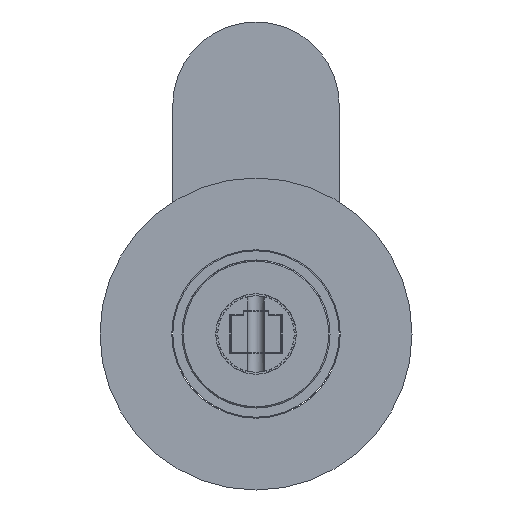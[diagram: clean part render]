
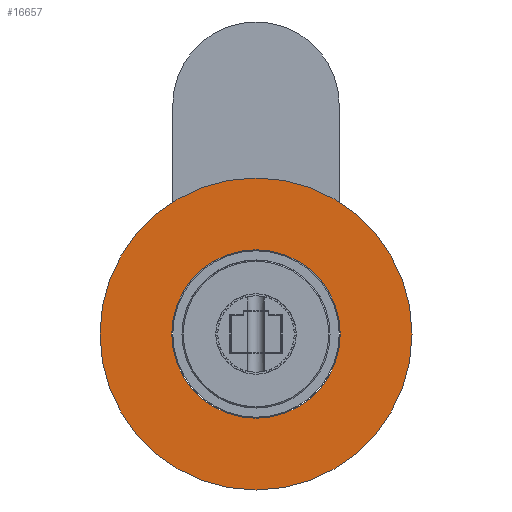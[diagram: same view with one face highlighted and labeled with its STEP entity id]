
A CAD part, front view. The second image highlights one B-rep face of the part: STEP entity #16657.
In plain terms, the highlighted planar face has unit normal (0, -1, 0).
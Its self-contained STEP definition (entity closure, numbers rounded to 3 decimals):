
#16552=CARTESIAN_POINT('',(0.,-12.,0.));
#16553=DIRECTION('',(0.,-1.,0.));
#16554=DIRECTION('',(1.,0.,0.));
#16555=AXIS2_PLACEMENT_3D('',#16552,#16553,#16554);
#16557=CARTESIAN_POINT('',(0.,-12.,0.));
#16558=DIRECTION('',(0.,-1.,0.));
#16559=DIRECTION('',(-1.,0.,0.));
#16560=AXIS2_PLACEMENT_3D('',#16557,#16558,#16559);
#16562=CARTESIAN_POINT('',(0.,-12.,0.));
#16563=DIRECTION('',(0.,1.,0.));
#16564=DIRECTION('',(1.,0.,0.));
#16565=AXIS2_PLACEMENT_3D('',#16562,#16563,#16564);
#16567=CARTESIAN_POINT('',(0.,-12.,0.));
#16568=DIRECTION('',(0.,1.,0.));
#16569=DIRECTION('',(-1.,0.,0.));
#16570=AXIS2_PLACEMENT_3D('',#16567,#16568,#16569);
#16588=CARTESIAN_POINT('',(37.5,-12.,0.));
#16589=CARTESIAN_POINT('',(-37.5,-12.,0.));
#16590=VERTEX_POINT('',#16588);
#16591=VERTEX_POINT('',#16589);
#16592=CARTESIAN_POINT('',(20.25,-12.,0.));
#16593=CARTESIAN_POINT('',(-20.25,-12.,0.));
#16594=VERTEX_POINT('',#16592);
#16595=VERTEX_POINT('',#16593);
#16642=CARTESIAN_POINT('',(0.,-12.,0.));
#16643=DIRECTION('',(0.,-1.,0.));
#16644=DIRECTION('',(1.,0.,0.));
#16645=AXIS2_PLACEMENT_3D('',#16642,#16643,#16644);
#16646=PLANE('',#16645);
#16647=ORIENTED_EDGE('',*,*,#16622,.F.);
#16648=ORIENTED_EDGE('',*,*,#16636,.F.);
#16649=EDGE_LOOP('',(#16647,#16648));
#16650=FACE_OUTER_BOUND('',#16649,.F.);
#16652=ORIENTED_EDGE('',*,*,#16651,.F.);
#16654=ORIENTED_EDGE('',*,*,#16653,.F.);
#16655=EDGE_LOOP('',(#16652,#16654));
#16656=FACE_BOUND('',#16655,.F.);
#16657=ADVANCED_FACE('',(#16650,#16656),#16646,.T.);
#16556=CIRCLE('',#16555,37.5);
#16561=CIRCLE('',#16560,37.5);
#16566=CIRCLE('',#16565,20.25);
#16571=CIRCLE('',#16570,20.25);
#16622=EDGE_CURVE('',#16590,#16591,#16556,.T.);
#16636=EDGE_CURVE('',#16591,#16590,#16561,.T.);
#16651=EDGE_CURVE('',#16594,#16595,#16566,.T.);
#16653=EDGE_CURVE('',#16595,#16594,#16571,.T.);
